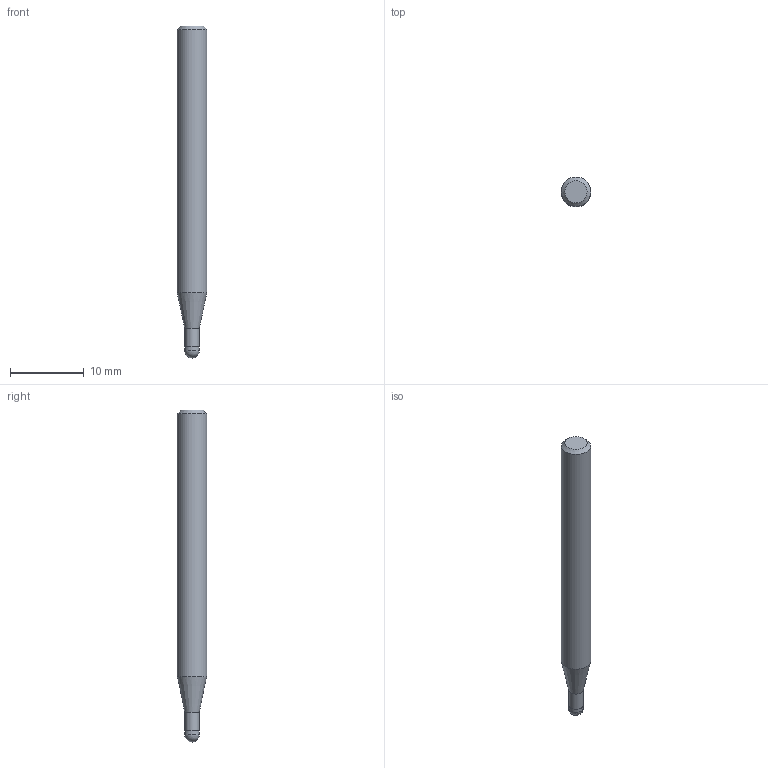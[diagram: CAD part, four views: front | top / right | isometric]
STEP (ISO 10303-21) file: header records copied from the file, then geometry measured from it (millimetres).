
FILE_DESCRIPTION((''),'2;1');
FILE_NAME('C:\Users\nsx150\AppData\Local\Temp\Mastercam 2021\YA1ILF8T9D\TEMP.step','2021-10-01T13:17:56',(''),(''),'STEP Write','Mastercam 2021 ... CNC Software, Inc.','');
FILE_SCHEMA(('AUTOMOTIVE_DESIGN'));
Length unit declared in the file: millimetre
Products named in the file (1): None
Bounding box: 4 x 4 x 45 mm (x, y, z)
Volume: 498.9 mm3; surface area: 539.9 mm2
Topology: 2 solids, 2 shells, 9 faces, 14 edges, 8 vertices
Faces by surface type: plane 3, cylinder 3, cone 2, sphere 1
Full cylindrical faces by diameter (mm): 1.94 x1, 2 x1, 4 x1
Entity records: 211 total; most frequent: DIRECTION 36, CARTESIAN_POINT 25, AXIS2_PLACEMENT_3D 18, ORIENTED_EDGE 14, EDGE_LOOP 14, STYLED_ITEM 12, ADVANCED_FACE 9, FACE_BOUND 8
